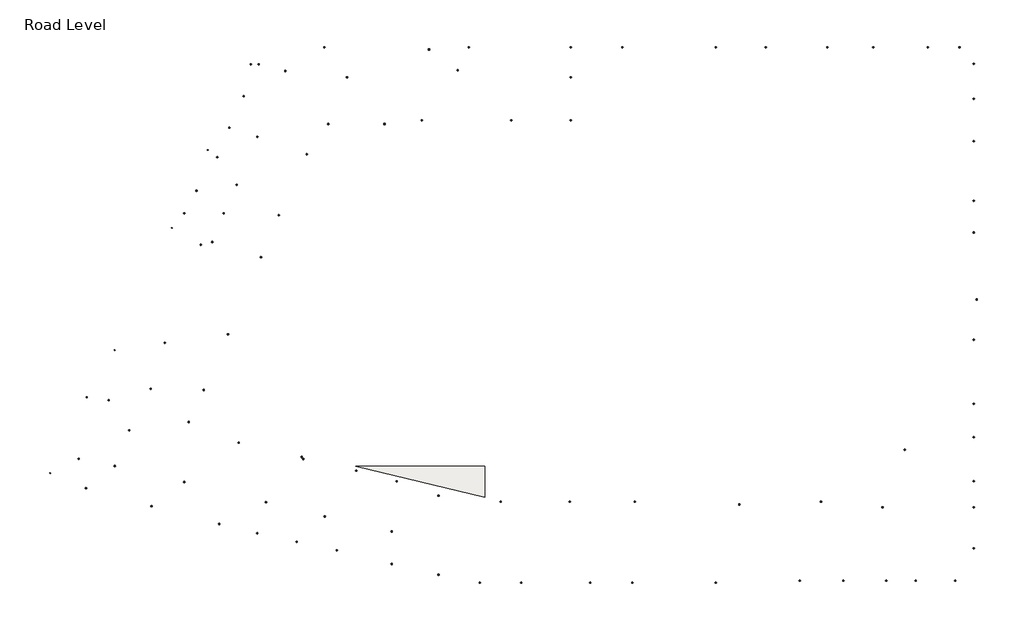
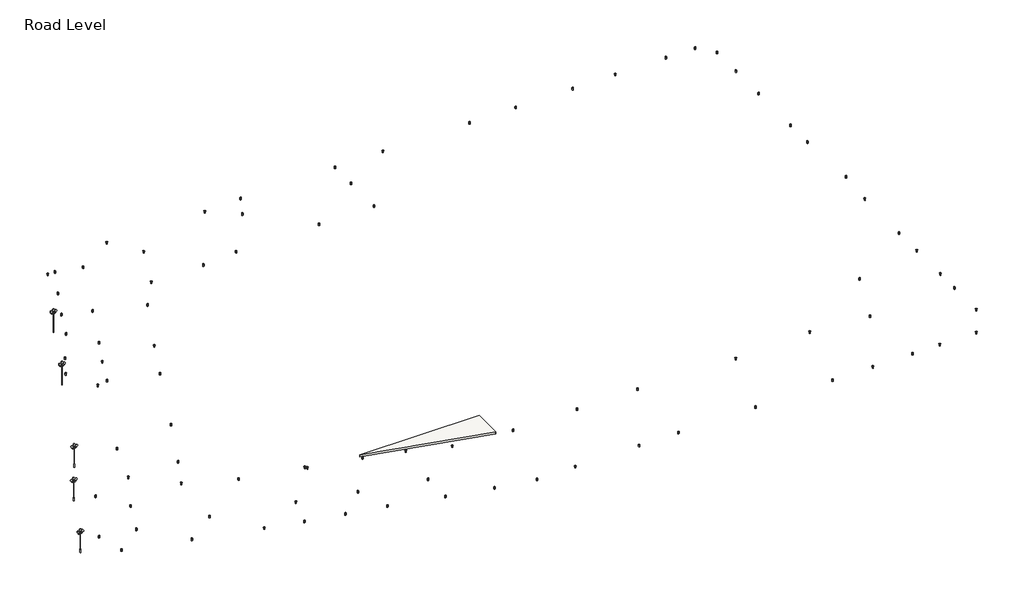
# One storey, incomplete: 96 light fixtures, 1 slab.
"""IFC4 building model written with IfcOpenShell, lengths in millimetres."""

from ifc_helpers import new_model, si_unit, frame, origin, place, context, project, spatial, polyline, outline, extrude, transform, mapped, element, save
from components import street_light_3_street_light_3_fb53024a, street_light_8_street_light_8_87dfb617

model = new_model("IFC4")

# Units and contexts
model_context = context("Model", 3, world=origin())
ifc_project = project(units=[si_unit("LENGTHUNIT", "METRE", prefix="MILLI")], contexts=[model_context])

# Site, building, storey
site = spatial("IfcSite", under=ifc_project)
building = spatial("IfcBuilding", under=site)
storey = spatial("IfcBuildingStorey", under=building, Name="Road Level", Elevation=0.0)

# Light fixtures
placement = place(None, origin())
street_light_3_street_light_3_shape = street_light_3_street_light_3_fb53024a(model_context)
element("IfcLightFixture", 1, ObjectType="Street Light (3) : Street Light (3)", at=placement, inside=storey, context=model_context, shape_type="MappedRepresentation", body=[
    mapped(street_light_3_street_light_3_shape, transform((-58612.5865899, 7385.3851347, 0.0), x_axis=(1.0, 0.0, 0.0), y_axis=(0.0, 1.0, 0.0), z_axis=(0.0, 0.0, 1.0))),
])
element("IfcLightFixture", 2, ObjectType="Street Light (3) : Street Light (3)", at=placement, inside=storey, context=model_context, shape_type="MappedRepresentation", body=[
    mapped(street_light_3_street_light_3_shape, transform((-66612.5865899, -9654.6148653, 0.0), x_axis=(1.0, 0.0, 0.0), y_axis=(0.0, 1.0, 0.0), z_axis=(0.0, 0.0, 1.0))),
])
element("IfcLightFixture", 3, ObjectType="Street Light (3) : Street Light (3)", at=placement, inside=storey, context=model_context, shape_type="MappedRepresentation", body=[
    mapped(street_light_3_street_light_3_shape, transform((-53612.5865899, 18277.3851347, 0.0), x_axis=(1.0, 0.0, 0.0), y_axis=(0.0, 1.0, 0.0), z_axis=(0.0, 0.0, 1.0))),
])
element("IfcLightFixture", 4, ObjectType="Street Light (3) : Street Light (3)", at=placement, inside=storey, context=model_context, shape_type="MappedRepresentation", body=[
    mapped(street_light_3_street_light_3_shape, transform((-70495.4380252, -16237.6148653, 0.0), x_axis=(1.0, 0.0, 0.0), y_axis=(0.0, 1.0, 0.0), z_axis=(0.0, 0.0, 1.0))),
])
element("IfcLightFixture", 5, ObjectType="Street Light (3) : Street Light (3)", at=placement, inside=storey, context=model_context, shape_type="MappedRepresentation", body=[
    mapped(street_light_3_street_light_3_shape, transform((-75612.5865899, -26834.6148653, 0.0), x_axis=(1.0, 0.0, 0.0), y_axis=(0.0, 1.0, 0.0), z_axis=(0.0, 0.0, 1.0))),
])
street_light_8_street_light_8_shape = street_light_8_street_light_8_87dfb617(model_context)
element("IfcLightFixture", 6, ObjectType="Street Light (8) : Street Light (8)", at=placement, inside=storey, context=model_context, shape_type="MappedRepresentation", body=[
    mapped(street_light_8_street_light_8_shape, transform((-54598.803464, 5047.8851347, 50.0), x_axis=(1.0, 0.0, 0.0), y_axis=(0.0, 1.0, 0.0), z_axis=(0.0, 0.0, 1.0))),
])
element("IfcLightFixture", 7, ObjectType="Street Light (8) : Street Light (8)", at=placement, inside=storey, context=model_context, shape_type="MappedRepresentation", body=[
    mapped(street_light_8_street_light_8_shape, transform((-47612.5865899, 30218.5771435, 50.0), x_axis=(1.0, 0.0, 0.0), y_axis=(0.0, 1.0, 0.0), z_axis=(0.0, 0.0, 1.0))),
])
element("IfcLightFixture", 8, ObjectType="Street Light (8) : Street Light (8)", at=placement, inside=storey, context=model_context, shape_type="MappedRepresentation", body=[
    mapped(street_light_8_street_light_8_shape, transform((-53012.5865899, 5424.3851347, 50.0), x_axis=(1.0, 0.0, 0.0), y_axis=(0.0, 1.0, 0.0), z_axis=(0.0, 0.0, 1.0))),
])
element("IfcLightFixture", 9, ObjectType="Street Light (8) : Street Light (8)", at=placement, inside=storey, context=model_context, shape_type="MappedRepresentation", body=[
    mapped(street_light_8_street_light_8_shape, transform((-51412.5865899, 9424.3851347, 50.0), x_axis=(1.0, 0.0, 0.0), y_axis=(0.0, 1.0, 0.0), z_axis=(0.0, 0.0, 1.0))),
])
element("IfcLightFixture", 10, ObjectType="Street Light (8) : Street Light (8)", at=placement, inside=storey, context=model_context, shape_type="MappedRepresentation", body=[
    mapped(street_light_8_street_light_8_shape, transform((-49612.5865899, 13397.3851347, 50.0), x_axis=(1.0, 0.0, 0.0), y_axis=(0.0, 1.0, 0.0), z_axis=(0.0, 0.0, 1.0))),
])
element("IfcLightFixture", 11, ObjectType="Street Light (8) : Street Light (8)", at=placement, inside=storey, context=model_context, shape_type="MappedRepresentation", body=[
    mapped(street_light_8_street_light_8_shape, transform((-46712.5865899, 20097.3851347, 50.0), x_axis=(1.0, 0.0, 0.0), y_axis=(0.0, 1.0, 0.0), z_axis=(0.0, 0.0, 1.0))),
])
element("IfcLightFixture", 12, ObjectType="Street Light (8) : Street Light (8)", at=placement, inside=storey, context=model_context, shape_type="MappedRepresentation", body=[
    mapped(street_light_8_street_light_8_shape, transform((-42812.5865899, 29297.3851347, 50.0), x_axis=(1.0, 0.0, 0.0), y_axis=(0.0, 1.0, 0.0), z_axis=(0.0, 0.0, 1.0))),
])
element("IfcLightFixture", 13, ObjectType="Street Light (8) : Street Light (8)", at=placement, inside=storey, context=model_context, shape_type="MappedRepresentation", body=[
    mapped(street_light_8_street_light_8_shape, transform((-36812.5865899, 21897.3851347, 50.0), x_axis=(1.0, 0.0, 0.0), y_axis=(0.0, 1.0, 0.0), z_axis=(0.0, 0.0, 1.0))),
])
element("IfcLightFixture", 14, ObjectType="Street Light (8) : Street Light (8)", at=placement, inside=storey, context=model_context, shape_type="MappedRepresentation", body=[
    mapped(street_light_8_street_light_8_shape, transform((-28967.5865899, 21897.3851347, 50.0), x_axis=(1.0, 0.0, 0.0), y_axis=(0.0, 1.0, 0.0), z_axis=(0.0, 0.0, 1.0))),
])
element("IfcLightFixture", 15, ObjectType="Street Light (8) : Street Light (8)", at=placement, inside=storey, context=model_context, shape_type="MappedRepresentation", body=[
    mapped(street_light_8_street_light_8_shape, transform((-39812.5865899, 17677.3851347, 50.0), x_axis=(1.0, 0.0, 0.0), y_axis=(0.0, 1.0, 0.0), z_axis=(0.0, 0.0, 1.0))),
])
element("IfcLightFixture", 16, ObjectType="Street Light (8) : Street Light (8)", at=placement, inside=storey, context=model_context, shape_type="MappedRepresentation", body=[
    mapped(street_light_8_street_light_8_shape, transform((-43712.5865899, 9182.3851347, 50.0), x_axis=(1.0, 0.0, 0.0), y_axis=(0.0, 1.0, 0.0), z_axis=(0.0, 0.0, 1.0))),
])
element("IfcLightFixture", 17, ObjectType="Street Light (8) : Street Light (8)", at=placement, inside=storey, context=model_context, shape_type="MappedRepresentation", body=[
    mapped(street_light_8_street_light_8_shape, transform((-46212.5865899, 3324.3851347, 50.0), x_axis=(1.0, 0.0, 0.0), y_axis=(0.0, 1.0, 0.0), z_axis=(0.0, 0.0, 1.0))),
])
element("IfcLightFixture", 18, ObjectType="Street Light (8) : Street Light (8)", at=placement, inside=storey, context=model_context, shape_type="MappedRepresentation", body=[
    mapped(street_light_8_street_light_8_shape, transform((-50812.5865899, -7452.6148653, 50.0), x_axis=(1.0, 0.0, 0.0), y_axis=(0.0, 1.0, 0.0), z_axis=(0.0, 0.0, 1.0))),
])
element("IfcLightFixture", 19, ObjectType="Street Light (8) : Street Light (8)", at=placement, inside=storey, context=model_context, shape_type="MappedRepresentation", body=[
    mapped(street_light_8_street_light_8_shape, transform((-54212.5865899, -15221.2351655, 50.0), x_axis=(1.0, 0.0, 0.0), y_axis=(0.0, 1.0, 0.0), z_axis=(0.0, 0.0, 1.0))),
])
element("IfcLightFixture", 20, ObjectType="Street Light (8) : Street Light (8)", at=placement, inside=storey, context=model_context, shape_type="MappedRepresentation", body=[
    mapped(street_light_8_street_light_8_shape, transform((-56312.5865899, -19697.6148653, 50.0), x_axis=(1.0, 0.0, 0.0), y_axis=(0.0, 1.0, 0.0), z_axis=(0.0, 0.0, 1.0))),
])
element("IfcLightFixture", 21, ObjectType="Street Light (8) : Street Light (8)", at=placement, inside=storey, context=model_context, shape_type="MappedRepresentation", body=[
    mapped(street_light_8_street_light_8_shape, transform((-49332.3907639, -22572.6148653, 50.0), x_axis=(1.0, 0.0, 0.0), y_axis=(0.0, 1.0, 0.0), z_axis=(0.0, 0.0, 1.0))),
])
element("IfcLightFixture", 22, ObjectType="Street Light (8) : Street Light (8)", at=placement, inside=storey, context=model_context, shape_type="MappedRepresentation", body=[
    mapped(street_light_8_street_light_8_shape, transform((-40532.3907639, -24572.6148653, 50.0), x_axis=(1.0, 0.0, 0.0), y_axis=(0.0, 1.0, 0.0), z_axis=(0.0, 0.0, 1.0))),
])
element("IfcLightFixture", 23, ObjectType="Street Light (8) : Street Light (8)", at=placement, inside=storey, context=model_context, shape_type="MappedRepresentation", body=[
    mapped(street_light_8_street_light_8_shape, transform((-59612.5865899, -8654.6148653, 50.0), x_axis=(1.0, 0.0, 0.0), y_axis=(0.0, 1.0, 0.0), z_axis=(0.0, 0.0, 1.0))),
])
element("IfcLightFixture", 24, ObjectType="Street Light (8) : Street Light (8)", at=placement, inside=storey, context=model_context, shape_type="MappedRepresentation", body=[
    mapped(street_light_8_street_light_8_shape, transform((-61612.5865899, -15057.6310718, 50.0), x_axis=(1.0, 0.0, 0.0), y_axis=(0.0, 1.0, 0.0), z_axis=(0.0, 0.0, 1.0))),
])
element("IfcLightFixture", 25, ObjectType="Street Light (8) : Street Light (8)", at=placement, inside=storey, context=model_context, shape_type="MappedRepresentation", body=[
    mapped(street_light_8_street_light_8_shape, transform((-64612.5865899, -20855.6148653, 50.0), x_axis=(1.0, 0.0, 0.0), y_axis=(0.0, 1.0, 0.0), z_axis=(0.0, 0.0, 1.0))),
])
element("IfcLightFixture", 26, ObjectType="Street Light (8) : Street Light (8)", at=placement, inside=storey, context=model_context, shape_type="MappedRepresentation", body=[
    mapped(street_light_8_street_light_8_shape, transform((-66612.5865899, -25834.6148653, 50.0), x_axis=(1.0, 0.0, 0.0), y_axis=(0.0, 1.0, 0.0), z_axis=(0.0, 0.0, 1.0))),
])
element("IfcLightFixture", 27, ObjectType="Street Light (8) : Street Light (8)", at=placement, inside=storey, context=model_context, shape_type="MappedRepresentation", body=[
    mapped(street_light_8_street_light_8_shape, transform((-56912.5865899, -28072.6148653, 50.0), x_axis=(1.0, 0.0, 0.0), y_axis=(0.0, 1.0, 0.0), z_axis=(0.0, 0.0, 1.0))),
])
element("IfcLightFixture", 28, ObjectType="Street Light (8) : Street Light (8)", at=placement, inside=storey, context=model_context, shape_type="MappedRepresentation", body=[
    mapped(street_light_8_street_light_8_shape, transform((-45512.5865899, -30872.6148653, 50.0), x_axis=(1.0, 0.0, 0.0), y_axis=(0.0, 1.0, 0.0), z_axis=(0.0, 0.0, 1.0))),
])
element("IfcLightFixture", 29, ObjectType="Street Light (8) : Street Light (8)", at=placement, inside=storey, context=model_context, shape_type="MappedRepresentation", body=[
    mapped(street_light_8_street_light_8_shape, transform((-40312.5865899, -24852.6148653, 50.0), x_axis=(1.0, 0.0, 0.0), y_axis=(0.0, 1.0, 0.0), z_axis=(0.0, 0.0, 1.0))),
])
element("IfcLightFixture", 30, ObjectType="Street Light (8) : Street Light (8)", at=placement, inside=storey, context=model_context, shape_type="MappedRepresentation", body=[
    mapped(street_light_8_street_light_8_shape, transform((-32912.5865899, -26472.6148653, 50.0), x_axis=(1.0, 0.0, 0.0), y_axis=(0.0, 1.0, 0.0), z_axis=(0.0, 0.0, 1.0))),
])
element("IfcLightFixture", 31, ObjectType="Street Light (8) : Street Light (8)", at=placement, inside=storey, context=model_context, shape_type="MappedRepresentation", body=[
    mapped(street_light_8_street_light_8_shape, transform((-37312.5865899, -32872.6148653, 50.0), x_axis=(1.0, 0.0, 0.0), y_axis=(0.0, 1.0, 0.0), z_axis=(0.0, 0.0, 1.0))),
])
element("IfcLightFixture", 32, ObjectType="Street Light (8) : Street Light (8)", at=placement, inside=storey, context=model_context, shape_type="MappedRepresentation", body=[
    mapped(street_light_8_street_light_8_shape, transform((-27967.5865899, -34972.6148653, 50.0), x_axis=(1.0, 0.0, 0.0), y_axis=(0.0, 1.0, 0.0), z_axis=(0.0, 0.0, 1.0))),
])
element("IfcLightFixture", 33, ObjectType="Street Light (8) : Street Light (8)", at=placement, inside=storey, context=model_context, shape_type="MappedRepresentation", body=[
    mapped(street_light_8_street_light_8_shape, transform((-27267.5865899, -27972.6148653, 50.0), x_axis=(1.0, 0.0, 0.0), y_axis=(0.0, 1.0, 0.0), z_axis=(0.0, 0.0, 1.0))),
])
element("IfcLightFixture", 34, ObjectType="Street Light (8) : Street Light (8)", at=placement, inside=storey, context=model_context, shape_type="MappedRepresentation", body=[
    mapped(street_light_8_street_light_8_shape, transform((-34198.9894657, 28397.3851347, 50.0), x_axis=(1.0, 0.0, 0.0), y_axis=(0.0, 1.0, 0.0), z_axis=(0.0, 0.0, 1.0))),
])
element("IfcLightFixture", 35, ObjectType="Street Light (8) : Street Light (8)", at=placement, inside=storey, context=model_context, shape_type="MappedRepresentation", body=[
    mapped(street_light_8_street_light_8_shape, transform((-18764.5865899, 29397.3851347, 50.0), x_axis=(1.0, 0.0, 0.0), y_axis=(0.0, 1.0, 0.0), z_axis=(0.0, 0.0, 1.0))),
])
element("IfcLightFixture", 36, ObjectType="Street Light (8) : Street Light (8)", at=placement, inside=storey, context=model_context, shape_type="MappedRepresentation", body=[
    mapped(street_light_8_street_light_8_shape, transform((-2977.5865899, 28397.3851347, 50.0), x_axis=(1.0, 0.0, 0.0), y_axis=(0.0, 1.0, 0.0), z_axis=(0.0, 0.0, 1.0))),
])
element("IfcLightFixture", 37, ObjectType="Street Light (8) : Street Light (8)", at=placement, inside=storey, context=model_context, shape_type="MappedRepresentation", body=[
    mapped(street_light_8_street_light_8_shape, transform((-11280.0865899, 22397.3851347, 50.0), x_axis=(1.0, 0.0, 0.0), y_axis=(0.0, 1.0, 0.0), z_axis=(0.0, 0.0, 1.0))),
])
element("IfcLightFixture", 38, ObjectType="Street Light (8) : Street Light (8)", at=placement, inside=storey, context=model_context, shape_type="MappedRepresentation", body=[
    mapped(street_light_8_street_light_8_shape, transform((-2977.5865899, 22397.3851347, 50.0), x_axis=(1.0, 0.0, 0.0), y_axis=(0.0, 1.0, 0.0), z_axis=(0.0, 0.0, 1.0))),
])
element("IfcLightFixture", 39, ObjectType="Street Light (8) : Street Light (8)", at=placement, inside=storey, context=model_context, shape_type="MappedRepresentation", body=[
    mapped(street_light_8_street_light_8_shape, transform((-23747.5865898, 22397.3851347, 50.0), x_axis=(1.0, 0.0, 0.0), y_axis=(0.0, 1.0, 0.0), z_axis=(0.0, 0.0, 1.0))),
])
element("IfcLightFixture", 40, ObjectType="Street Light (8) : Street Light (8)", at=placement, inside=storey, context=model_context, shape_type="MappedRepresentation", body=[
    mapped(street_light_8_street_light_8_shape, transform((-67464.7439578, -16636.1148653, 50.0), x_axis=(1.0, 0.0, 0.0), y_axis=(0.0, 1.0, 0.0), z_axis=(0.0, 0.0, 1.0))),
])
element("IfcLightFixture", 41, ObjectType="Street Light (8) : Street Light (8)", at=placement, inside=storey, context=model_context, shape_type="MappedRepresentation", body=[
    mapped(street_light_8_street_light_8_shape, transform((-71664.7439578, -24836.1148653, 50.0), x_axis=(1.0, 0.0, 0.0), y_axis=(0.0, 1.0, 0.0), z_axis=(0.0, 0.0, 1.0))),
])
element("IfcLightFixture", 42, ObjectType="Street Light (8) : Street Light (8)", at=placement, inside=storey, context=model_context, shape_type="MappedRepresentation", body=[
    mapped(street_light_8_street_light_8_shape, transform((-70629.2797326, -28922.6148653, 50.0), x_axis=(1.0, 0.0, 0.0), y_axis=(0.0, 1.0, 0.0), z_axis=(0.0, 0.0, 1.0))),
])
element("IfcLightFixture", 43, ObjectType="Street Light (8) : Street Light (8)", at=placement, inside=storey, context=model_context, shape_type="MappedRepresentation", body=[
    mapped(street_light_8_street_light_8_shape, transform((-61481.3506356, -31422.6148653, 50.0), x_axis=(1.0, 0.0, 0.0), y_axis=(0.0, 1.0, 0.0), z_axis=(0.0, 0.0, 1.0))),
])
element("IfcLightFixture", 44, ObjectType="Street Light (8) : Street Light (8)", at=placement, inside=storey, context=model_context, shape_type="MappedRepresentation", body=[
    mapped(street_light_8_street_light_8_shape, transform((-52037.5865899, -33922.6148653, 50.0), x_axis=(1.0, 0.0, 0.0), y_axis=(0.0, 1.0, 0.0), z_axis=(0.0, 0.0, 1.0))),
])
element("IfcLightFixture", 45, ObjectType="Street Light (8) : Street Light (8)", at=placement, inside=storey, context=model_context, shape_type="MappedRepresentation", body=[
    mapped(street_light_8_street_light_8_shape, transform((-46737.5865899, -35222.6148653, 50.0), x_axis=(1.0, 0.0, 0.0), y_axis=(0.0, 1.0, 0.0), z_axis=(0.0, 0.0, 1.0))),
])
element("IfcLightFixture", 46, ObjectType="Street Light (8) : Street Light (8)", at=placement, inside=storey, context=model_context, shape_type="MappedRepresentation", body=[
    mapped(street_light_8_street_light_8_shape, transform((-41237.5865899, -36414.192095, 50.0), x_axis=(1.0, 0.0, 0.0), y_axis=(0.0, 1.0, 0.0), z_axis=(0.0, 0.0, 1.0))),
])
element("IfcLightFixture", 47, ObjectType="Street Light (8) : Street Light (8)", at=placement, inside=storey, context=model_context, shape_type="MappedRepresentation", body=[
    mapped(street_light_8_street_light_8_shape, transform((-35612.5865899, -37602.6148653, 50.0), x_axis=(1.0, 0.0, 0.0), y_axis=(0.0, 1.0, 0.0), z_axis=(0.0, 0.0, 1.0))),
])
element("IfcLightFixture", 48, ObjectType="Street Light (8) : Street Light (8)", at=placement, inside=storey, context=model_context, shape_type="MappedRepresentation", body=[
    mapped(street_light_8_street_light_8_shape, transform((-27967.5865899, -39502.6148653, 50.0), x_axis=(1.0, 0.0, 0.0), y_axis=(0.0, 1.0, 0.0), z_axis=(0.0, 0.0, 1.0))),
])
element("IfcLightFixture", 49, ObjectType="Street Light (8) : Street Light (8)", at=placement, inside=storey, context=model_context, shape_type="MappedRepresentation", body=[
    mapped(street_light_8_street_light_8_shape, transform((-21437.5865899, -41002.6148653, 50.0), x_axis=(1.0, 0.0, 0.0), y_axis=(0.0, 1.0, 0.0), z_axis=(0.0, 0.0, 1.0))),
])
element("IfcLightFixture", 50, ObjectType="Street Light (8) : Street Light (8)", at=placement, inside=storey, context=model_context, shape_type="MappedRepresentation", body=[
    mapped(street_light_8_street_light_8_shape, transform((-15659.5328249, -42102.6148653, 50.0), x_axis=(1.0, 0.0, 0.0), y_axis=(0.0, 1.0, 0.0), z_axis=(0.0, 0.0, 1.0))),
])
element("IfcLightFixture", 51, ObjectType="Street Light (8) : Street Light (8)", at=placement, inside=storey, context=model_context, shape_type="MappedRepresentation", body=[
    mapped(street_light_8_street_light_8_shape, transform((-9907.5865899, -42102.6148653, 50.0), x_axis=(1.0, 0.0, 0.0), y_axis=(0.0, 1.0, 0.0), z_axis=(0.0, 0.0, 1.0))),
])
element("IfcLightFixture", 52, ObjectType="Street Light (8) : Street Light (8)", at=placement, inside=storey, context=model_context, shape_type="MappedRepresentation", body=[
    mapped(street_light_8_street_light_8_shape, transform((-277.5865899, -42102.6148653, 50.0), x_axis=(1.0, 0.0, 0.0), y_axis=(0.0, 1.0, 0.0), z_axis=(0.0, 0.0, 1.0))),
])
element("IfcLightFixture", 53, ObjectType="Street Light (8) : Street Light (8)", at=placement, inside=storey, context=model_context, shape_type="MappedRepresentation", body=[
    mapped(street_light_8_street_light_8_shape, transform((5627.4134101, -42102.6148653, 50.0), x_axis=(1.0, 0.0, 0.0), y_axis=(0.0, 1.0, 0.0), z_axis=(0.0, 0.0, 1.0))),
])
element("IfcLightFixture", 54, ObjectType="Street Light (8) : Street Light (8)", at=placement, inside=storey, context=model_context, shape_type="MappedRepresentation", body=[
    mapped(street_light_8_street_light_8_shape, transform((17257.4134101, -42102.6148653, 50.0), x_axis=(1.0, 0.0, 0.0), y_axis=(0.0, 1.0, 0.0), z_axis=(0.0, 0.0, 1.0))),
])
element("IfcLightFixture", 55, ObjectType="Street Light (8) : Street Light (8)", at=placement, inside=storey, context=model_context, shape_type="MappedRepresentation", body=[
    mapped(street_light_8_street_light_8_shape, transform((28987.4134101, -41830.5461487, 50.0), x_axis=(1.0, 0.0, 0.0), y_axis=(0.0, 1.0, 0.0), z_axis=(0.0, 0.0, 1.0))),
])
element("IfcLightFixture", 56, ObjectType="Street Light (8) : Street Light (8)", at=placement, inside=storey, context=model_context, shape_type="MappedRepresentation", body=[
    mapped(street_light_8_street_light_8_shape, transform((35062.4134101, -41830.5461487, 50.0), x_axis=(1.0, 0.0, 0.0), y_axis=(0.0, 1.0, 0.0), z_axis=(0.0, 0.0, 1.0))),
])
element("IfcLightFixture", 57, ObjectType="Street Light (8) : Street Light (8)", at=placement, inside=storey, context=model_context, shape_type="MappedRepresentation", body=[
    mapped(street_light_8_street_light_8_shape, transform((41062.4134101, -41830.5461487, 50.0), x_axis=(1.0, 0.0, 0.0), y_axis=(0.0, 1.0, 0.0), z_axis=(0.0, 0.0, 1.0))),
])
element("IfcLightFixture", 58, ObjectType="Street Light (8) : Street Light (8)", at=placement, inside=storey, context=model_context, shape_type="MappedRepresentation", body=[
    mapped(street_light_8_street_light_8_shape, transform((45162.4134101, -41830.5461487, 50.0), x_axis=(1.0, 0.0, 0.0), y_axis=(0.0, 1.0, 0.0), z_axis=(0.0, 0.0, 1.0))),
])
element("IfcLightFixture", 59, ObjectType="Street Light (8) : Street Light (8)", at=placement, inside=storey, context=model_context, shape_type="MappedRepresentation", body=[
    mapped(street_light_8_street_light_8_shape, transform((50662.4134101, -41830.5461487, 50.0), x_axis=(1.0, 0.0, 0.0), y_axis=(0.0, 1.0, 0.0), z_axis=(0.0, 0.0, 1.0))),
])
element("IfcLightFixture", 60, ObjectType="Street Light (8) : Street Light (8)", at=placement, inside=storey, context=model_context, shape_type="MappedRepresentation", body=[
    mapped(street_light_8_street_light_8_shape, transform((53262.4134101, -37319.6707664, 50.0), x_axis=(1.0, 0.0, 0.0), y_axis=(0.0, 1.0, 0.0), z_axis=(0.0, 0.0, 1.0))),
])
element("IfcLightFixture", 61, ObjectType="Street Light (8) : Street Light (8)", at=placement, inside=storey, context=model_context, shape_type="MappedRepresentation", body=[
    mapped(street_light_8_street_light_8_shape, transform((53262.4134101, -31602.6148653, 50.0), x_axis=(1.0, 0.0, 0.0), y_axis=(0.0, 1.0, 0.0), z_axis=(0.0, 0.0, 1.0))),
])
element("IfcLightFixture", 62, ObjectType="Street Light (8) : Street Light (8)", at=placement, inside=storey, context=model_context, shape_type="MappedRepresentation", body=[
    mapped(street_light_8_street_light_8_shape, transform((53262.4134101, -27934.6148653, 50.0), x_axis=(1.0, 0.0, 0.0), y_axis=(0.0, 1.0, 0.0), z_axis=(0.0, 0.0, 1.0))),
])
element("IfcLightFixture", 63, ObjectType="Street Light (8) : Street Light (8)", at=placement, inside=storey, context=model_context, shape_type="MappedRepresentation", body=[
    mapped(street_light_8_street_light_8_shape, transform((53262.4134101, -21799.6148653, 50.0), x_axis=(1.0, 0.0, 0.0), y_axis=(0.0, 1.0, 0.0), z_axis=(0.0, 0.0, 1.0))),
])
element("IfcLightFixture", 64, ObjectType="Street Light (8) : Street Light (8)", at=placement, inside=storey, context=model_context, shape_type="MappedRepresentation", body=[
    mapped(street_light_8_street_light_8_shape, transform((53262.4134101, -17167.1148653, 50.0), x_axis=(1.0, 0.0, 0.0), y_axis=(0.0, 1.0, 0.0), z_axis=(0.0, 0.0, 1.0))),
])
element("IfcLightFixture", 65, ObjectType="Street Light (8) : Street Light (8)", at=placement, inside=storey, context=model_context, shape_type="MappedRepresentation", body=[
    mapped(street_light_8_street_light_8_shape, transform((53262.4134101, -8214.6148653, 50.0), x_axis=(1.0, 0.0, 0.0), y_axis=(0.0, 1.0, 0.0), z_axis=(0.0, 0.0, 1.0))),
])
element("IfcLightFixture", 66, ObjectType="Street Light (8) : Street Light (8)", at=placement, inside=storey, context=model_context, shape_type="MappedRepresentation", body=[
    mapped(street_light_8_street_light_8_shape, transform((53674.4134101, -2599.6572845, 50.0), x_axis=(1.0, 0.0, 0.0), y_axis=(0.0, 1.0, 0.0), z_axis=(0.0, 0.0, 1.0))),
])
element("IfcLightFixture", 67, ObjectType="Street Light (8) : Street Light (8)", at=placement, inside=storey, context=model_context, shape_type="MappedRepresentation", body=[
    mapped(street_light_8_street_light_8_shape, transform((53262.4134101, 6747.8851347, 50.0), x_axis=(1.0, 0.0, 0.0), y_axis=(0.0, 1.0, 0.0), z_axis=(0.0, 0.0, 1.0))),
])
element("IfcLightFixture", 68, ObjectType="Street Light (8) : Street Light (8)", at=placement, inside=storey, context=model_context, shape_type="MappedRepresentation", body=[
    mapped(street_light_8_street_light_8_shape, transform((53262.4134101, 11162.5507406, 50.0), x_axis=(1.0, 0.0, 0.0), y_axis=(0.0, 1.0, 0.0), z_axis=(0.0, 0.0, 1.0))),
])
element("IfcLightFixture", 69, ObjectType="Street Light (8) : Street Light (8)", at=placement, inside=storey, context=model_context, shape_type="MappedRepresentation", body=[
    mapped(street_light_8_street_light_8_shape, transform((53262.4134101, 19505.3851347, 50.0), x_axis=(1.0, 0.0, 0.0), y_axis=(0.0, 1.0, 0.0), z_axis=(0.0, 0.0, 1.0))),
])
element("IfcLightFixture", 70, ObjectType="Street Light (8) : Street Light (8)", at=placement, inside=storey, context=model_context, shape_type="MappedRepresentation", body=[
    mapped(street_light_8_street_light_8_shape, transform((53262.4134101, 25397.3851347, 50.0), x_axis=(1.0, 0.0, 0.0), y_axis=(0.0, 1.0, 0.0), z_axis=(0.0, 0.0, 1.0))),
])
element("IfcLightFixture", 71, ObjectType="Street Light (8) : Street Light (8)", at=placement, inside=storey, context=model_context, shape_type="MappedRepresentation", body=[
    mapped(street_light_8_street_light_8_shape, transform((53262.4134101, 30297.3851347, 50.0), x_axis=(1.0, 0.0, 0.0), y_axis=(0.0, 1.0, 0.0), z_axis=(0.0, 0.0, 1.0))),
])
element("IfcLightFixture", 72, ObjectType="Street Light (8) : Street Light (8)", at=placement, inside=storey, context=model_context, shape_type="MappedRepresentation", body=[
    mapped(street_light_8_street_light_8_shape, transform((51274.4134101, 32597.3851347, 50.0), x_axis=(1.0, 0.0, 0.0), y_axis=(0.0, 1.0, 0.0), z_axis=(0.0, 0.0, 1.0))),
])
element("IfcLightFixture", 73, ObjectType="Street Light (8) : Street Light (8)", at=placement, inside=storey, context=model_context, shape_type="MappedRepresentation", body=[
    mapped(street_light_8_street_light_8_shape, transform((46874.4134101, 32597.3851347, 50.0), x_axis=(1.0, 0.0, 0.0), y_axis=(0.0, 1.0, 0.0), z_axis=(0.0, 0.0, 1.0))),
])
element("IfcLightFixture", 74, ObjectType="Street Light (8) : Street Light (8)", at=placement, inside=storey, context=model_context, shape_type="MappedRepresentation", body=[
    mapped(street_light_8_street_light_8_shape, transform((39244.4134101, 32597.3851347, 50.0), x_axis=(1.0, 0.0, 0.0), y_axis=(0.0, 1.0, 0.0), z_axis=(0.0, 0.0, 1.0))),
])
element("IfcLightFixture", 75, ObjectType="Street Light (8) : Street Light (8)", at=placement, inside=storey, context=model_context, shape_type="MappedRepresentation", body=[
    mapped(street_light_8_street_light_8_shape, transform((32834.4134101, 32597.3851347, 50.0), x_axis=(1.0, 0.0, 0.0), y_axis=(0.0, 1.0, 0.0), z_axis=(0.0, 0.0, 1.0))),
])
element("IfcLightFixture", 76, ObjectType="Street Light (8) : Street Light (8)", at=placement, inside=storey, context=model_context, shape_type="MappedRepresentation", body=[
    mapped(street_light_8_street_light_8_shape, transform((24245.4134101, 32597.3851347, 50.0), x_axis=(1.0, 0.0, 0.0), y_axis=(0.0, 1.0, 0.0), z_axis=(0.0, 0.0, 1.0))),
])
element("IfcLightFixture", 77, ObjectType="Street Light (8) : Street Light (8)", at=placement, inside=storey, context=model_context, shape_type="MappedRepresentation", body=[
    mapped(street_light_8_street_light_8_shape, transform((17284.9134101, 32597.3851347, 50.0), x_axis=(1.0, 0.0, 0.0), y_axis=(0.0, 1.0, 0.0), z_axis=(0.0, 0.0, 1.0))),
])
element("IfcLightFixture", 78, ObjectType="Street Light (8) : Street Light (8)", at=placement, inside=storey, context=model_context, shape_type="MappedRepresentation", body=[
    mapped(street_light_8_street_light_8_shape, transform((4234.9134101, 32597.3851347, 50.0), x_axis=(1.0, 0.0, 0.0), y_axis=(0.0, 1.0, 0.0), z_axis=(0.0, 0.0, 1.0))),
])
element("IfcLightFixture", 79, ObjectType="Street Light (8) : Street Light (8)", at=placement, inside=storey, context=model_context, shape_type="MappedRepresentation", body=[
    mapped(street_light_8_street_light_8_shape, transform((-2977.5865899, 32597.3851347, 50.0), x_axis=(1.0, 0.0, 0.0), y_axis=(0.0, 1.0, 0.0), z_axis=(0.0, 0.0, 1.0))),
])
element("IfcLightFixture", 80, ObjectType="Street Light (8) : Street Light (8)", at=placement, inside=storey, context=model_context, shape_type="MappedRepresentation", body=[
    mapped(street_light_8_street_light_8_shape, transform((-17192.5865899, 32597.3851347, 50.0), x_axis=(1.0, 0.0, 0.0), y_axis=(0.0, 1.0, 0.0), z_axis=(0.0, 0.0, 1.0))),
])
element("IfcLightFixture", 81, ObjectType="Street Light (8) : Street Light (8)", at=placement, inside=storey, context=model_context, shape_type="MappedRepresentation", body=[
    mapped(street_light_8_street_light_8_shape, transform((-22751.0865899, 32297.3851347, 50.0), x_axis=(1.0, 0.0, 0.0), y_axis=(0.0, 1.0, 0.0), z_axis=(0.0, 0.0, 1.0))),
])
element("IfcLightFixture", 82, ObjectType="Street Light (8) : Street Light (8)", at=placement, inside=storey, context=model_context, shape_type="MappedRepresentation", body=[
    mapped(street_light_8_street_light_8_shape, transform((-37351.0865899, 32597.3851347, 50.0), x_axis=(1.0, 0.0, 0.0), y_axis=(0.0, 1.0, 0.0), z_axis=(0.0, 0.0, 1.0))),
])
element("IfcLightFixture", 83, ObjectType="Street Light (8) : Street Light (8)", at=placement, inside=storey, context=model_context, shape_type="MappedRepresentation", body=[
    mapped(street_light_8_street_light_8_shape, transform((-46537.5865899, 30218.5771435, 50.0), x_axis=(1.0, 0.0, 0.0), y_axis=(0.0, 1.0, 0.0), z_axis=(0.0, 0.0, 1.0))),
])
element("IfcLightFixture", 84, ObjectType="Street Light (8) : Street Light (8)", at=placement, inside=storey, context=model_context, shape_type="MappedRepresentation", body=[
    mapped(street_light_8_street_light_8_shape, transform((-48637.5865899, 25797.3851347, 50.0), x_axis=(1.0, 0.0, 0.0), y_axis=(0.0, 1.0, 0.0), z_axis=(0.0, 0.0, 1.0))),
])
element("IfcLightFixture", 85, ObjectType="Street Light (8) : Street Light (8)", at=placement, inside=storey, context=model_context, shape_type="MappedRepresentation", body=[
    mapped(street_light_8_street_light_8_shape, transform((-50612.5865899, 21397.3851347, 50.0), x_axis=(1.0, 0.0, 0.0), y_axis=(0.0, 1.0, 0.0), z_axis=(0.0, 0.0, 1.0))),
])
element("IfcLightFixture", 86, ObjectType="Street Light (8) : Street Light (8)", at=placement, inside=storey, context=model_context, shape_type="MappedRepresentation", body=[
    mapped(street_light_8_street_light_8_shape, transform((-52312.5865899, 17277.3851347, 50.0), x_axis=(1.0, 0.0, 0.0), y_axis=(0.0, 1.0, 0.0), z_axis=(0.0, 0.0, 1.0))),
])
element("IfcLightFixture", 87, ObjectType="Street Light (8) : Street Light (8)", at=placement, inside=storey, context=model_context, shape_type="MappedRepresentation", body=[
    mapped(street_light_8_street_light_8_shape, transform((-55212.5865899, 12577.3851347, 50.0), x_axis=(1.0, 0.0, 0.0), y_axis=(0.0, 1.0, 0.0), z_axis=(0.0, 0.0, 1.0))),
])
element("IfcLightFixture", 88, ObjectType="Street Light (8) : Street Light (8)", at=placement, inside=storey, context=model_context, shape_type="MappedRepresentation", body=[
    mapped(street_light_8_street_light_8_shape, transform((-56912.5865899, 9424.3851347, 50.0), x_axis=(1.0, 0.0, 0.0), y_axis=(0.0, 1.0, 0.0), z_axis=(0.0, 0.0, 1.0))),
])
element("IfcLightFixture", 89, ObjectType="Street Light (8) : Street Light (8)", at=placement, inside=storey, context=model_context, shape_type="MappedRepresentation", body=[
    mapped(street_light_8_street_light_8_shape, transform((-21437.5865899, -29972.6148653, 0.0), x_axis=(1.0, 0.0, 0.0), y_axis=(0.0, 1.0, 0.0), z_axis=(0.0, 0.0, 1.0))),
])
element("IfcLightFixture", 90, ObjectType="Street Light (8) : Street Light (8)", at=placement, inside=storey, context=model_context, shape_type="MappedRepresentation", body=[
    mapped(street_light_8_street_light_8_shape, transform((-12753.0865899, -30802.5356623, 0.0), x_axis=(1.0, 0.0, 0.0), y_axis=(0.0, 1.0, 0.0), z_axis=(0.0, 0.0, 1.0))),
])
element("IfcLightFixture", 91, ObjectType="Street Light (8) : Street Light (8)", at=placement, inside=storey, context=model_context, shape_type="MappedRepresentation", body=[
    mapped(street_light_8_street_light_8_shape, transform((-3119.5865899, -30802.5356623, 0.0), x_axis=(1.0, 0.0, 0.0), y_axis=(0.0, 1.0, 0.0), z_axis=(0.0, 0.0, 1.0))),
])
element("IfcLightFixture", 92, ObjectType="Street Light (8) : Street Light (8)", at=placement, inside=storey, context=model_context, shape_type="MappedRepresentation", body=[
    mapped(street_light_8_street_light_8_shape, transform((5977.3463767, -30802.5356623, 0.0), x_axis=(1.0, 0.0, 0.0), y_axis=(0.0, 1.0, 0.0), z_axis=(0.0, 0.0, 1.0))),
])
element("IfcLightFixture", 93, ObjectType="Street Light (8) : Street Light (8)", at=placement, inside=storey, context=model_context, shape_type="MappedRepresentation", body=[
    mapped(street_light_8_street_light_8_shape, transform((20557.4134101, -31202.6148653, 0.0), x_axis=(1.0, 0.0, 0.0), y_axis=(0.0, 1.0, 0.0), z_axis=(0.0, 0.0, 1.0))),
])
element("IfcLightFixture", 94, ObjectType="Street Light (8) : Street Light (8)", at=placement, inside=storey, context=model_context, shape_type="MappedRepresentation", body=[
    mapped(street_light_8_street_light_8_shape, transform((31947.4134101, -30802.5356623, 0.0), x_axis=(1.0, 0.0, 0.0), y_axis=(0.0, 1.0, 0.0), z_axis=(0.0, 0.0, 1.0))),
])
element("IfcLightFixture", 95, ObjectType="Street Light (8) : Street Light (8)", at=placement, inside=storey, context=model_context, shape_type="MappedRepresentation", body=[
    mapped(street_light_8_street_light_8_shape, transform((40537.4134101, -31602.6148653, 0.0), x_axis=(1.0, 0.0, 0.0), y_axis=(0.0, 1.0, 0.0), z_axis=(0.0, 0.0, 1.0))),
])
element("IfcLightFixture", 96, ObjectType="Street Light (8) : Street Light (8)", at=placement, inside=storey, context=model_context, shape_type="MappedRepresentation", body=[
    mapped(street_light_8_street_light_8_shape, transform((43637.4134101, -23564.6148653, 0.0), x_axis=(1.0, 0.0, 0.0), y_axis=(0.0, 1.0, 0.0), z_axis=(0.0, 0.0, 1.0))),
])

# Slab
element("IfcSlab", 97, ObjectType="Podium", at=placement, inside=storey, context=model_context, shape_type="SweptSolid", body=[
    extrude(outline(polyline([(-14952.0123023, -25834.6148653), (-14952.0123023, -30202.6148653), (-14967.0754917, -30202.6148653), (-32932.3116748, -25834.6148653), (-14952.0123023, -25834.6148653)])), frame((0.0, 0.0, -300.0), z_axis=(0.0, 0.0, 1.0), x_axis=(1.0, 0.0, 0.0)), (0.0, 0.0, 1.0), 300.0),
])

save(model, "model.ifc")
